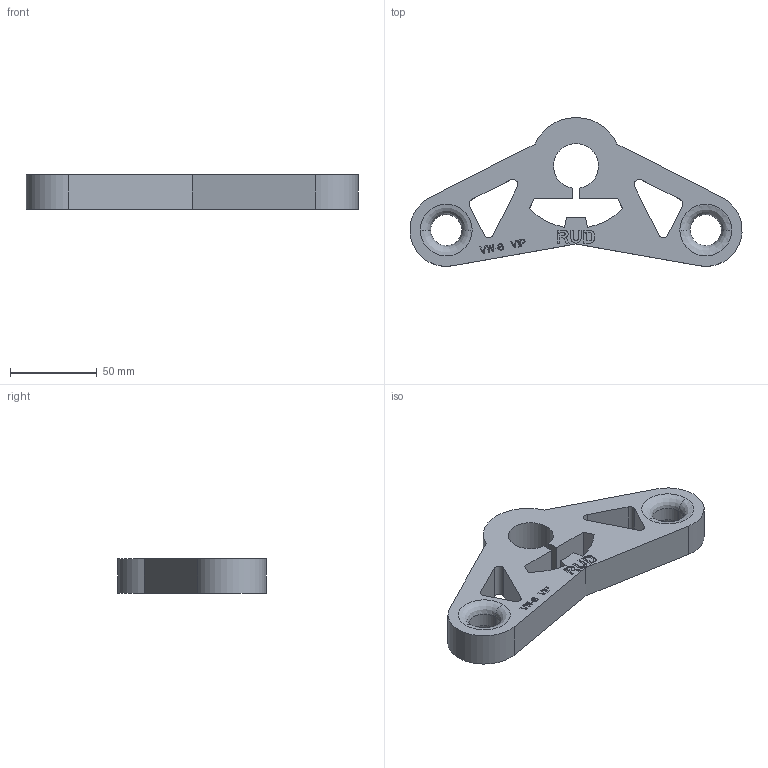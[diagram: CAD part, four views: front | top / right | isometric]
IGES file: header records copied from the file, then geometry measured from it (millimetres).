
Start section:  PTC IGES file: VW-8_7904369_M34652-P-1.igs
Global section: file name: VW-8_7904369_M34652-P-1.igs; native system: Pro/ENGINEER by Parametric Technology Corporation; preprocessor: 2010140; author: Andreas.Wendler; organization: Unknown; date: 20150518.075957; units: millimetre
Bounding box: 191.89 x 86 x 20 mm (x, y, z)
Volume: 149572.9 mm3; surface area: 34298.3 mm2
Topology: 1 solids, 1 shells, 221 faces, 610 edges, 404 vertices
Faces by surface type: bspline 187, revolution 34
